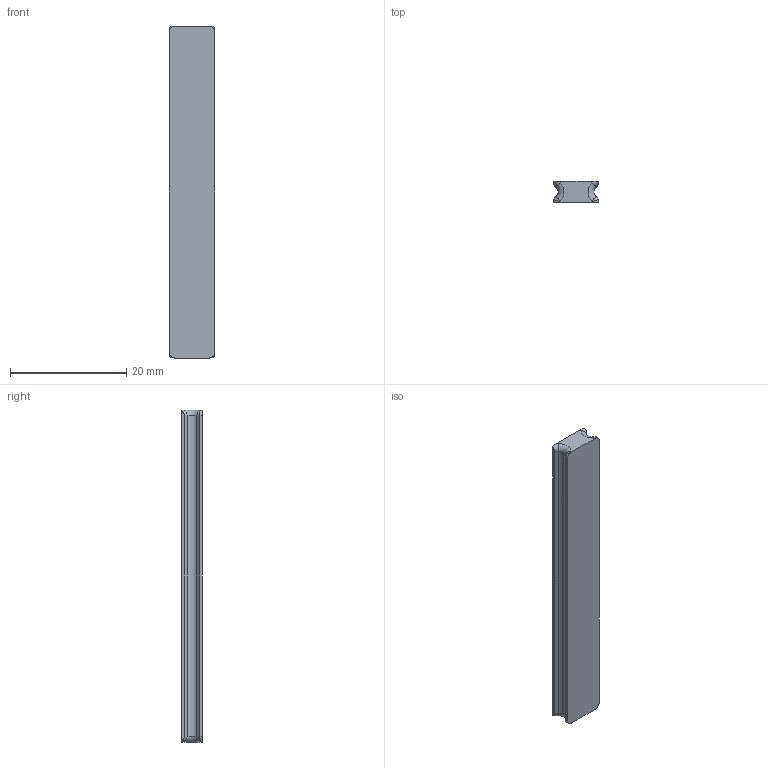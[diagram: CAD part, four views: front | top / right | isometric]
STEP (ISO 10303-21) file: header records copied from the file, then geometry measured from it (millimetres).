
FILE_DESCRIPTION(/* description */ (''),/* implementation_level */ '2;1');
FILE_NAME(/* name */ 'BOX_connect_z060_c057.stp',/* time_stamp */ '2024-02-16T08:50:51+01:00',/* author */ ('ott'),/* organization */ (''),/* preprocessor_version */ 'ST-DEVELOPER v19.2',/* originating_system */ 'Autodesk Inventor 2023',/* authorisation */ '');
FILE_SCHEMA (('AUTOMOTIVE_DESIGN { 1 0 10303 214 3 1 1 }'));
Length unit declared in the file: millimetre
Products named in the file (1): BOX P25 Verbinder
Bounding box: 7.77 x 3.6 x 57 mm (x, y, z)
Volume: 1433.9 mm3; surface area: 1402.9 mm2
Topology: 1 solids, 1 shells, 30 faces, 72 edges, 44 vertices
Faces by surface type: cylinder 14, plane 12, torus 4
Entity records: 954 total; most frequent: DIRECTION 166, CARTESIAN_POINT 147, ORIENTED_EDGE 144, EDGE_CURVE 72, AXIS2_PLACEMENT_3D 63, VERTEX_POINT 44, LINE 40, VECTOR 40
